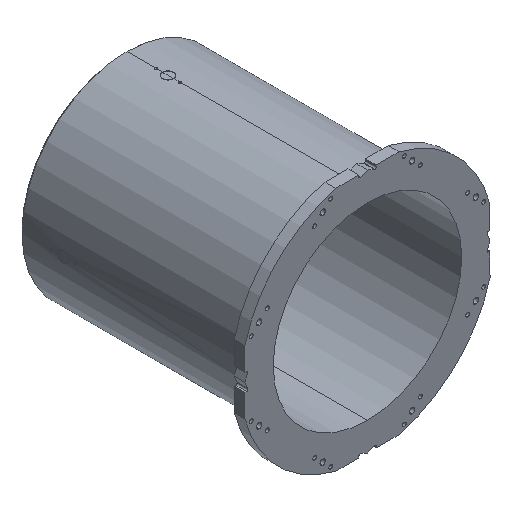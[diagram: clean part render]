
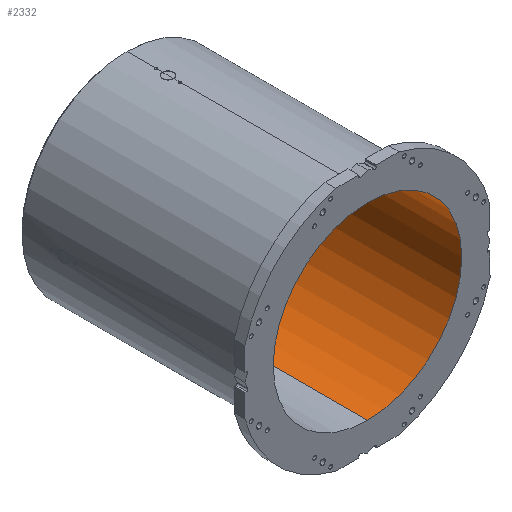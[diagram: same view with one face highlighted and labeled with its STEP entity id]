
A CAD part, isometric view. The second image highlights one B-rep face of the part: STEP entity #2332.
In plain terms, the highlighted cylindrical face has radius 350 mm (diameter 700 mm), a partial arc.
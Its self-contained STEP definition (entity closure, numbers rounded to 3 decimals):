
#158 = CARTESIAN_POINT ( 'NONE',  ( 0., 0., -350. ) ) ;
#794 = CARTESIAN_POINT ( 'NONE',  ( 0., 0., -350. ) ) ;
#929 = EDGE_CURVE ( 'NONE', #12589, #5133, #3142, .T. ) ;
#1017 = FACE_OUTER_BOUND ( 'NONE', #3998, .T. ) ;
#1603 = CARTESIAN_POINT ( 'NONE',  ( 0., 863., 350. ) ) ;
#2124 = ORIENTED_EDGE ( 'NONE', *, *, #11580, .F. ) ;
#2231 = CARTESIAN_POINT ( 'NONE',  ( 0., 863., -350. ) ) ;
#2332 = ADVANCED_FACE ( 'NONE', ( #1017 ), #10892, .F. ) ;
#2334 = CARTESIAN_POINT ( 'NONE',  ( 0., 0., 350. ) ) ;
#2401 = DIRECTION ( 'NONE',  ( 0., 1., 0. ) ) ;
#2969 = ORIENTED_EDGE ( 'NONE', *, *, #6386, .T. ) ;
#3142 = LINE ( 'NONE', #158, #11537 ) ;
#3998 = EDGE_LOOP ( 'NONE', ( #12780, #2124, #2969, #10178 ) ) ;
#4942 = CARTESIAN_POINT ( 'NONE',  ( 0., 0., 0. ) ) ;
#5015 = CARTESIAN_POINT ( 'NONE',  ( 0., 0., 350. ) ) ;
#5133 = VERTEX_POINT ( 'NONE', #2231 ) ;
#6319 = CIRCLE ( 'NONE', #12136, 350. ) ;
#6332 = DIRECTION ( 'NONE',  ( 0., 0., 1. ) ) ;
#6386 = EDGE_CURVE ( 'NONE', #6873, #9803, #8117, .T. ) ;
#6873 = VERTEX_POINT ( 'NONE', #2334 ) ;
#7126 = CARTESIAN_POINT ( 'NONE',  ( 0., 0., 0. ) ) ;
#7159 = CIRCLE ( 'NONE', #9015, 350. ) ;
#8115 = VECTOR ( 'NONE', #12185, 1000. ) ;
#8117 = LINE ( 'NONE', #5015, #8115 ) ;
#8668 = DIRECTION ( 'NONE',  ( 0., 0., 1. ) ) ;
#8902 = AXIS2_PLACEMENT_3D ( 'NONE', #4942, #11662, #8668 ) ;
#9001 = DIRECTION ( 'NONE',  ( 0., 0., 1. ) ) ;
#9015 = AXIS2_PLACEMENT_3D ( 'NONE', #12220, #2401, #6332 ) ;
#9803 = VERTEX_POINT ( 'NONE', #1603 ) ;
#10178 = ORIENTED_EDGE ( 'NONE', *, *, #10207, .T. ) ;
#10207 = EDGE_CURVE ( 'NONE', #9803, #5133, #7159, .T. ) ;
#10227 = DIRECTION ( 'NONE',  ( 0., 1., 0. ) ) ;
#10892 = CYLINDRICAL_SURFACE ( 'NONE', #8902, 350. ) ;
#11537 = VECTOR ( 'NONE', #10227, 1000. ) ;
#11580 = EDGE_CURVE ( 'NONE', #6873, #12589, #6319, .T. ) ;
#11662 = DIRECTION ( 'NONE',  ( 0., 1., 0. ) ) ;
#11979 = DIRECTION ( 'NONE',  ( 0., 1., 0. ) ) ;
#12136 = AXIS2_PLACEMENT_3D ( 'NONE', #7126, #11979, #9001 ) ;
#12185 = DIRECTION ( 'NONE',  ( 0., 1., 0. ) ) ;
#12220 = CARTESIAN_POINT ( 'NONE',  ( 0., 863., 0. ) ) ;
#12589 = VERTEX_POINT ( 'NONE', #794 ) ;
#12780 = ORIENTED_EDGE ( 'NONE', *, *, #929, .F. ) ;
